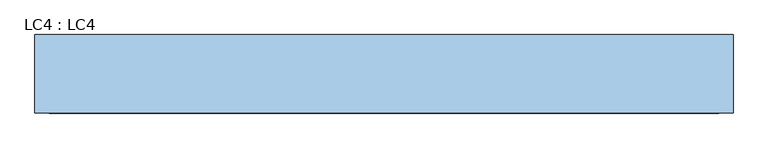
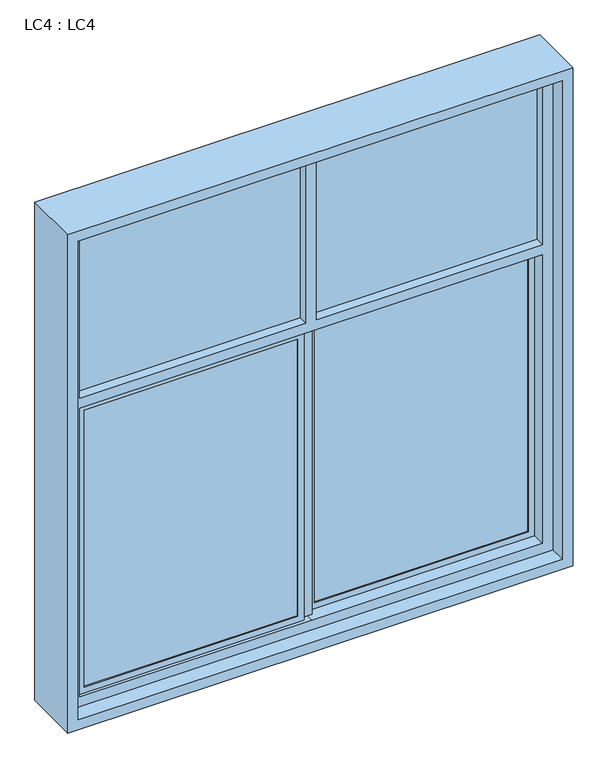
"""IFC4 building model written with IfcOpenShell, lengths in millimetres: window geometry, LC4 : LC4."""

from ifc_helpers import new_model, si_unit, frame, origin, place, context, project, spatial, polyline, outline, extrude, source, transform, mapped, element, save


def lc4_lc4_fe35c1f3(model_context):
    return source(origin(), model_context, "Body", "SweptSolid", [
        extrude(outline(polyline([(1070.0, 20.0), (55.0, 20.0), (55.0, 30.0), (1070.0, 30.0), (1070.0, 20.0)])), frame((0.0, 0.0, 1030.0), z_axis=(0.0, 0.0, 1.0), x_axis=(1.0, 0.0, 0.0)), (0.0, 0.0, 1.0), 1390.0),
        extrude(outline(polyline([(-55.0, -30.0), (-1070.0, -30.0), (-1070.0, -20.0), (-55.0, -20.0), (-55.0, -30.0)])), frame((0.0, 0.0, 1030.0), z_axis=(0.0, 0.0, 1.0), x_axis=(1.0, 0.0, 0.0)), (0.0, 0.0, 1.0), 1390.0),
        extrude(outline(polyline([(-25.0, -5.0), (-1100.0, -5.0), (-1100.0, 5.0), (-25.0, 5.0), (-25.0, -5.0)])), frame((0.0, 0.0, 2500.0), z_axis=(0.0, 0.0, 1.0), x_axis=(1.0, 0.0, 0.0)), (0.0, 0.0, 1.0), 800.0),
        extrude(outline(polyline([(1100.0, -5.0), (25.0, -5.0), (25.0, 5.0), (1100.0, 5.0), (1100.0, -5.0)])), frame((0.0, 0.0, 2500.0), z_axis=(0.0, 0.0, 1.0), x_axis=(1.0, 0.0, 0.0)), (0.0, 0.0, 1.0), 800.0),
        extrude(outline(polyline([(25.0, -15.0), (-25.0, -15.0), (-25.0, 15.0), (25.0, 15.0), (25.0, -15.0)])), frame((0.0, 0.0, 1000.0), z_axis=(0.0, 0.0, 1.0), x_axis=(1.0, 0.0, 0.0)), (0.0, 0.0, 1.0), 1450.0),
        extrude(outline(polyline([(2450.0, 1100.0), (2450.0, 25.0), (1000.0, 25.0), (1000.0, 1100.0), (2450.0, 1100.0)]), holes=[polyline([(2420.0, 1070.0), (1030.0, 1070.0), (1030.0, 55.0), (2420.0, 55.0), (2420.0, 1070.0)])]), frame((0.0, 15.0, 0.0), z_axis=(0.0, 1.0, 0.0), x_axis=(0.0, 0.0, 1.0)), (0.0, 0.0, 1.0), 20.0),
        extrude(outline(polyline([(2450.0, -25.0), (2450.0, -1100.0), (1000.0, -1100.0), (1000.0, -25.0), (2450.0, -25.0)]), holes=[polyline([(2420.0, -55.0), (1030.0, -55.0), (1030.0, -1070.0), (2420.0, -1070.0), (2420.0, -55.0)])]), frame((0.0, -35.0, 0.0), z_axis=(0.0, 1.0, 0.0), x_axis=(0.0, 0.0, 1.0)), (0.0, 0.0, 1.0), 20.0),
        extrude(outline(polyline([(3350.0, 1150.0), (3350.0, -1150.0), (950.0, -1150.0), (950.0, 1150.0), (3350.0, 1150.0)]), holes=[polyline([(3300.0, -25.0), (2500.0, -25.0), (2500.0, -1100.0), (3300.0, -1100.0), (3300.0, -25.0)]), polyline([(3300.0, 1100.0), (2500.0, 1100.0), (2500.0, 25.0), (3300.0, 25.0), (3300.0, 1100.0)]), polyline([(2450.0, 1.4599267), (2450.0, 1100.0), (1000.0, 1100.0), (1000.0, 1.4599267), (1000.0, -1100.0), (2450.0, -1100.0), (2450.0, 1.4599267)])]), frame((0.0, -50.0, 0.0), z_axis=(0.0, 1.0, 0.0), x_axis=(0.0, 0.0, 1.0)), (0.0, 0.0, 1.0), 100.0),
        extrude(outline(polyline([(3400.0, 1200.0), (3400.0, -1200.0), (900.0, -1200.0), (900.0, 1200.0), (3400.0, 1200.0)]), holes=[polyline([(3350.0, 1150.0), (950.0, 1150.0), (950.0, -1150.0), (3350.0, -1150.0), (3350.0, 1150.0)])]), frame((0.0, -126.3011339, 0.0), z_axis=(0.0, 1.0, 0.0), x_axis=(0.0, 0.0, 1.0)), (0.0, 0.0, 1.0), 270.0),
    ])


if __name__ == "__main__":
    model = new_model("IFC4")
    model_context = context("Model", 3, world=origin())
    ifc_project = project(units=[si_unit("LENGTHUNIT", "METRE", prefix="MILLI")], contexts=[model_context])
    site = spatial("IfcSite", under=ifc_project)
    building = spatial("IfcBuilding", under=site)
    placement = place(None, origin())
    lc4_lc4_shape = lc4_lc4_fe35c1f3(model_context)
    element("IfcWindow", 1, ObjectType="LC4 : LC4", at=placement, inside=building, context=model_context, shape_type="MappedRepresentation", body=[
        mapped(lc4_lc4_shape, transform((0.0, 0.0, 0.0), x_axis=(1.0, 0.0, 0.0), y_axis=(0.0, 1.0, 0.0), z_axis=(0.0, 0.0, 1.0))),
    ])
    save(model, "model.ifc")
